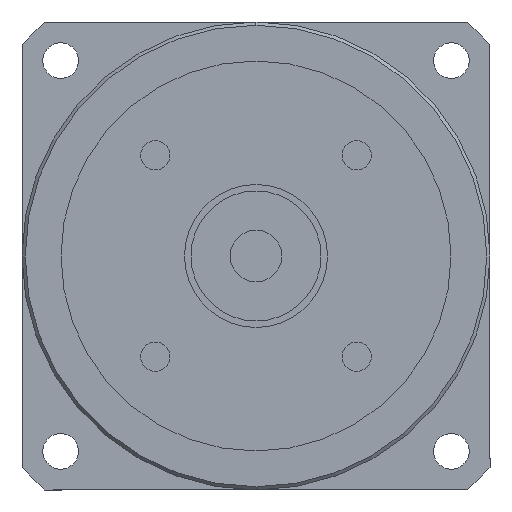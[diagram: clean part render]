
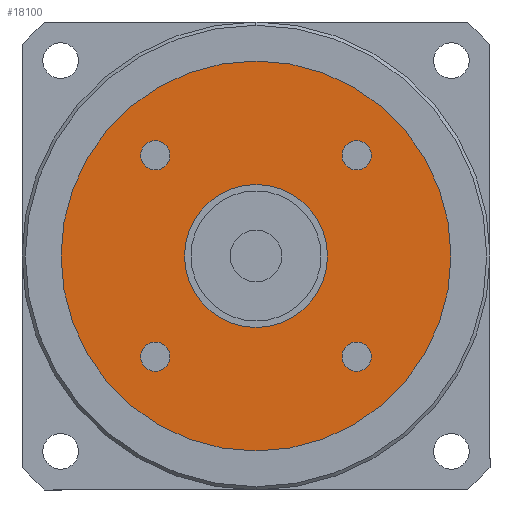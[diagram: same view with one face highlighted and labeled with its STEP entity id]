
A CAD part, left-side view. The second image highlights one B-rep face of the part: STEP entity #18100.
In plain terms, the highlighted planar face has unit normal (-1, 0, 0) as drawn and (0, 0, -1) by its records, which use the part's own axes.
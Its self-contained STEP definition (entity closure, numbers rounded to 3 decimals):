
#15130=CARTESIAN_POINT('',(15.493,-13.243,-91.));
#15140=VERTEX_POINT('',#15130);
#15320=CARTESIAN_POINT('',(15.493,-17.743,-91.));
#15330=VERTEX_POINT('',#15320);
#15360=CARTESIAN_POINT('',(15.493,-15.493,-91.));
#15370=DIRECTION('',(0.,0.,-1.));
#15380=DIRECTION('',(1.,0.,0.));
#15390=AXIS2_PLACEMENT_3D('',#15360,#15370,#15380);
#15400=CIRCLE('',#15390,2.25);
#15410=CARTESIAN_POINT('',(17.743,-15.493,-91.));
#15420=VERTEX_POINT('',#15410);
#15430=EDGE_CURVE('',#15420,#15330,#15400,.T.);
#15450=EDGE_CURVE('',#15140,#15420,#15400,.T.);
#15550=CARTESIAN_POINT('',(0.,0.,
-91.));
#15560=DIRECTION('',(0.,0.,1.));
#15570=DIRECTION('',(0.,-1.,0.));
#15580=AXIS2_PLACEMENT_3D('',#15550,#15560,#15570);
#15590=CIRCLE('',#15580,11.);
#15600=CARTESIAN_POINT('',(0.,-11.,-91.));
#15610=VERTEX_POINT('',#15600);
#15620=CARTESIAN_POINT('',(11.,0.,-91.));
#15630=VERTEX_POINT('',#15620);
#15640=EDGE_CURVE('',#15610,#15630,#15590,.T.);
#15870=CARTESIAN_POINT('',(-11.,0.,-91.));
#15880=VERTEX_POINT('',#15870);
#15910=EDGE_CURVE('',#15880,#15610,#15590,.T.);
#17030=CARTESIAN_POINT('',(30.,0.,-91.));
#17040=VERTEX_POINT('',#17030);
#17070=CARTESIAN_POINT('',(0.,0.,
-91.));
#17080=DIRECTION('',(0.,0.,1.));
#17090=DIRECTION('',(0.,-1.,0.));
#17100=AXIS2_PLACEMENT_3D('',#17070,#17080,#17090);
#17110=CIRCLE('',#17100,30.);
#17120=CARTESIAN_POINT('',(0.,-30.,-91.));
#17130=VERTEX_POINT('',#17120);
#17140=EDGE_CURVE('',#17130,#17040,#17110,.T.);
#17160=CARTESIAN_POINT('',(-30.,0.,-91.));
#17170=VERTEX_POINT('',#17160);
#17180=EDGE_CURVE('',#17170,#17130,#17110,.T.);
#17300=CARTESIAN_POINT('',(0.,0.,
-91.));
#17310=DIRECTION('',(0.,0.,1.));
#17320=DIRECTION('',(-1.,0.,0.));
#17330=AXIS2_PLACEMENT_3D('',#17300,#17310,#17320);
#17340=PLANE('',#17330);
#17350=CARTESIAN_POINT('',(15.493,15.493,-91.));
#17360=DIRECTION('',(0.,0.,-1.));
#17370=DIRECTION('',(0.,1.,0.));
#17380=AXIS2_PLACEMENT_3D('',#17350,#17360,#17370);
#17390=CIRCLE('',#17380,2.25);
#17400=CARTESIAN_POINT('',(15.493,17.743,-91.));
#17410=VERTEX_POINT('',#17400);
#17420=CARTESIAN_POINT('',(17.743,15.493,-91.));
#17430=VERTEX_POINT('',#17420);
#17440=EDGE_CURVE('',#17410,#17430,#17390,.T.);
#17450=ORIENTED_EDGE('',*,*,#17440,.F.);
#17460=CARTESIAN_POINT('',(13.243,15.493,-91.));
#17470=VERTEX_POINT('',#17460);
#17480=EDGE_CURVE('',#17430,#17470,#17390,.T.);
#17490=ORIENTED_EDGE('',*,*,#17480,.F.);
#17500=EDGE_CURVE('',#17470,#17410,#17390,.T.);
#17510=ORIENTED_EDGE('',*,*,#17500,.F.);
#17520=EDGE_LOOP('',(#17510,#17490,#17450));
#17530=FACE_BOUND('',#17520,.T.);
#17540=CARTESIAN_POINT('',(-15.493,15.493,-91.));
#17550=DIRECTION('',(0.,0.,-1.));
#17560=DIRECTION('',(-1.,0.,0.));
#17570=AXIS2_PLACEMENT_3D('',#17540,#17550,#17560);
#17580=CIRCLE('',#17570,2.25);
#17590=CARTESIAN_POINT('',(-17.743,15.493,-91.));
#17600=VERTEX_POINT('',#17590);
#17610=CARTESIAN_POINT('',(-15.493,17.743,-91.));
#17620=VERTEX_POINT('',#17610);
#17630=EDGE_CURVE('',#17600,#17620,#17580,.T.);
#17640=ORIENTED_EDGE('',*,*,#17630,.F.);
#17650=CARTESIAN_POINT('',(-15.493,13.243,-91.));
#17660=VERTEX_POINT('',#17650);
#17670=EDGE_CURVE('',#17620,#17660,#17580,.T.);
#17680=ORIENTED_EDGE('',*,*,#17670,.F.);
#17690=EDGE_CURVE('',#17660,#17600,#17580,.T.);
#17700=ORIENTED_EDGE('',*,*,#17690,.F.);
#17710=EDGE_LOOP('',(#17700,#17680,#17640));
#17720=FACE_BOUND('',#17710,.T.);
#17730=CARTESIAN_POINT('',(-15.493,-15.493,-91.));
#17740=DIRECTION('',(0.,0.,-1.));
#17750=DIRECTION('',(0.,-1.,0.));
#17760=AXIS2_PLACEMENT_3D('',#17730,#17740,#17750);
#17770=CIRCLE('',#17760,2.25);
#17780=CARTESIAN_POINT('',(-15.493,-17.743,-91.));
#17790=VERTEX_POINT('',#17780);
#17800=CARTESIAN_POINT('',(-17.743,-15.493,-91.));
#17810=VERTEX_POINT('',#17800);
#17820=EDGE_CURVE('',#17790,#17810,#17770,.T.);
#17830=ORIENTED_EDGE('',*,*,#17820,.F.);
#17840=CARTESIAN_POINT('',(-13.243,-15.493,-91.));
#17850=VERTEX_POINT('',#17840);
#17860=EDGE_CURVE('',#17810,#17850,#17770,.T.);
#17870=ORIENTED_EDGE('',*,*,#17860,.F.);
#17880=EDGE_CURVE('',#17850,#17790,#17770,.T.);
#17890=ORIENTED_EDGE('',*,*,#17880,.F.);
#17900=EDGE_LOOP('',(#17890,#17870,#17830));
#17910=FACE_BOUND('',#17900,.T.);
#17920=EDGE_CURVE('',#15630,#15880,#15590,.T.);
#17930=ORIENTED_EDGE('',*,*,#17920,.T.);
#17940=ORIENTED_EDGE('',*,*,#15640,.T.);
#17950=ORIENTED_EDGE('',*,*,#15910,.T.);
#17960=EDGE_LOOP('',(#17950,#17940,#17930));
#17970=FACE_BOUND('',#17960,.T.);
#17980=ORIENTED_EDGE('',*,*,#15430,.F.);
#17990=EDGE_CURVE('',#15330,#15140,#15400,.T.);
#18000=ORIENTED_EDGE('',*,*,#17990,.F.);
#18010=ORIENTED_EDGE('',*,*,#15450,.F.);
#18020=EDGE_LOOP('',(#18010,#18000,#17980));
#18030=FACE_BOUND('',#18020,.T.);
#18040=ORIENTED_EDGE('',*,*,#17140,.F.);
#18050=EDGE_CURVE('',#17040,#17170,#17110,.T.);
#18060=ORIENTED_EDGE('',*,*,#18050,.F.);
#18070=ORIENTED_EDGE('',*,*,#17180,.F.);
#18080=EDGE_LOOP('',(#18070,#18060,#18040));
#18090=FACE_OUTER_BOUND('',#18080,.T.);
#18100=ADVANCED_FACE('',(#17530,#17720,#17910,#17970,#18030,#18090),
#17340,.F.);
